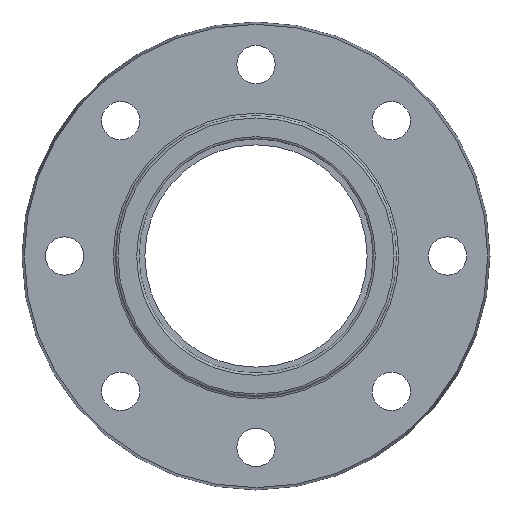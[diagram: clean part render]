
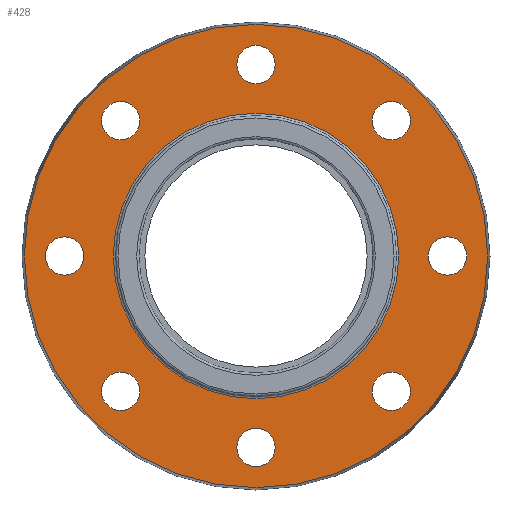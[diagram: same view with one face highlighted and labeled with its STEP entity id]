
A CAD part, left-side view. The second image highlights one B-rep face of the part: STEP entity #428.
In plain terms, the highlighted planar face has unit normal (-1, 0, 0).
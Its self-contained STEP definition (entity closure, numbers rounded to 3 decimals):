
#28=PLANE('',#493);
#59=FACE_BOUND('',#161,.T.);
#60=FACE_BOUND('',#162,.T.);
#61=FACE_BOUND('',#163,.T.);
#62=FACE_BOUND('',#164,.T.);
#63=FACE_BOUND('',#165,.T.);
#64=FACE_BOUND('',#166,.T.);
#65=FACE_BOUND('',#167,.T.);
#66=FACE_BOUND('',#168,.T.);
#67=FACE_BOUND('',#169,.T.);
#99=FACE_OUTER_BOUND('',#160,.T.);
#160=EDGE_LOOP('',(#360));
#161=EDGE_LOOP('',(#361));
#162=EDGE_LOOP('',(#362));
#163=EDGE_LOOP('',(#363));
#164=EDGE_LOOP('',(#364));
#165=EDGE_LOOP('',(#365));
#166=EDGE_LOOP('',(#366));
#167=EDGE_LOOP('',(#367));
#168=EDGE_LOOP('',(#368));
#169=EDGE_LOOP('',(#369));
#220=CIRCLE('',#492,67.1);
#221=CIRCLE('',#494,108.9);
#222=CIRCLE('',#495,9.);
#223=CIRCLE('',#496,9.);
#224=CIRCLE('',#497,9.);
#225=CIRCLE('',#498,9.);
#226=CIRCLE('',#499,9.);
#227=CIRCLE('',#500,9.);
#228=CIRCLE('',#501,9.);
#229=CIRCLE('',#502,9.);
#260=VERTEX_POINT('',#741);
#261=VERTEX_POINT('',#744);
#262=VERTEX_POINT('',#746);
#263=VERTEX_POINT('',#748);
#264=VERTEX_POINT('',#750);
#265=VERTEX_POINT('',#752);
#266=VERTEX_POINT('',#754);
#267=VERTEX_POINT('',#756);
#268=VERTEX_POINT('',#758);
#269=VERTEX_POINT('',#760);
#300=EDGE_CURVE('',#260,#260,#220,.T.);
#301=EDGE_CURVE('',#261,#261,#221,.T.);
#302=EDGE_CURVE('',#262,#262,#222,.T.);
#303=EDGE_CURVE('',#263,#263,#223,.T.);
#304=EDGE_CURVE('',#264,#264,#224,.T.);
#305=EDGE_CURVE('',#265,#265,#225,.T.);
#306=EDGE_CURVE('',#266,#266,#226,.T.);
#307=EDGE_CURVE('',#267,#267,#227,.T.);
#308=EDGE_CURVE('',#268,#268,#228,.T.);
#309=EDGE_CURVE('',#269,#269,#229,.T.);
#360=ORIENTED_EDGE('',*,*,#301,.T.);
#361=ORIENTED_EDGE('',*,*,#302,.T.);
#362=ORIENTED_EDGE('',*,*,#303,.T.);
#363=ORIENTED_EDGE('',*,*,#304,.T.);
#364=ORIENTED_EDGE('',*,*,#305,.T.);
#365=ORIENTED_EDGE('',*,*,#306,.T.);
#366=ORIENTED_EDGE('',*,*,#307,.T.);
#367=ORIENTED_EDGE('',*,*,#308,.T.);
#368=ORIENTED_EDGE('',*,*,#309,.T.);
#369=ORIENTED_EDGE('',*,*,#300,.F.);
#428=ADVANCED_FACE('',(#99,#59,#60,#61,#62,#63,#64,#65,#66,#67),#28,.T.);
#492=AXIS2_PLACEMENT_3D('',#742,#617,#618);
#493=AXIS2_PLACEMENT_3D('',#743,#619,#620);
#494=AXIS2_PLACEMENT_3D('',#745,#621,#622);
#495=AXIS2_PLACEMENT_3D('',#747,#623,#624);
#496=AXIS2_PLACEMENT_3D('',#749,#625,#626);
#497=AXIS2_PLACEMENT_3D('',#751,#627,#628);
#498=AXIS2_PLACEMENT_3D('',#753,#629,#630);
#499=AXIS2_PLACEMENT_3D('',#755,#631,#632);
#500=AXIS2_PLACEMENT_3D('',#757,#633,#634);
#501=AXIS2_PLACEMENT_3D('',#759,#635,#636);
#502=AXIS2_PLACEMENT_3D('',#761,#637,#638);
#617=DIRECTION('center_axis',(-1.,0.,0.));
#618=DIRECTION('ref_axis',(0.,1.,0.));
#619=DIRECTION('center_axis',(-1.,0.,0.));
#620=DIRECTION('ref_axis',(0.,0.,1.));
#621=DIRECTION('center_axis',(-1.,0.,0.));
#622=DIRECTION('ref_axis',(0.,0.,1.));
#623=DIRECTION('center_axis',(1.,0.,0.));
#624=DIRECTION('ref_axis',(0.,0.,1.));
#625=DIRECTION('center_axis',(1.,0.,0.));
#626=DIRECTION('ref_axis',(0.,0.707,0.707));
#627=DIRECTION('center_axis',(1.,0.,0.));
#628=DIRECTION('ref_axis',(0.,1.,0.));
#629=DIRECTION('center_axis',(1.,0.,0.));
#630=DIRECTION('ref_axis',(0.,0.707,-0.707));
#631=DIRECTION('center_axis',(1.,0.,0.));
#632=DIRECTION('ref_axis',(0.,0.,-1.));
#633=DIRECTION('center_axis',(1.,0.,0.));
#634=DIRECTION('ref_axis',(0.,-0.707,-0.707));
#635=DIRECTION('center_axis',(1.,0.,0.));
#636=DIRECTION('ref_axis',(0.,-1.,0.));
#637=DIRECTION('center_axis',(1.,0.,0.));
#638=DIRECTION('ref_axis',(0.,-0.707,0.707));
#741=CARTESIAN_POINT('',(10.,-67.1,0.));
#742=CARTESIAN_POINT('Origin',(10.,0.,0.));
#743=CARTESIAN_POINT('Origin',(10.,-66.,0.));
#744=CARTESIAN_POINT('',(10.,-108.9,0.));
#745=CARTESIAN_POINT('Origin',(10.,0.,0.));
#746=CARTESIAN_POINT('',(10.,90.,-9.));
#747=CARTESIAN_POINT('Origin',(10.,90.,0.));
#748=CARTESIAN_POINT('',(10.,57.276,-70.004));
#749=CARTESIAN_POINT('Origin',(10.,63.64,-63.64));
#750=CARTESIAN_POINT('',(10.,-9.,-90.));
#751=CARTESIAN_POINT('Origin',(10.,0.,-90.));
#752=CARTESIAN_POINT('',(10.,-70.004,-57.276));
#753=CARTESIAN_POINT('Origin',(10.,-63.64,-63.64));
#754=CARTESIAN_POINT('',(10.,-90.,9.));
#755=CARTESIAN_POINT('Origin',(10.,-90.,0.));
#756=CARTESIAN_POINT('',(10.,-57.276,70.004));
#757=CARTESIAN_POINT('Origin',(10.,-63.64,63.64));
#758=CARTESIAN_POINT('',(10.,9.,90.));
#759=CARTESIAN_POINT('Origin',(10.,0.,90.));
#760=CARTESIAN_POINT('',(10.,70.004,57.276));
#761=CARTESIAN_POINT('Origin',(10.,63.64,63.64));
